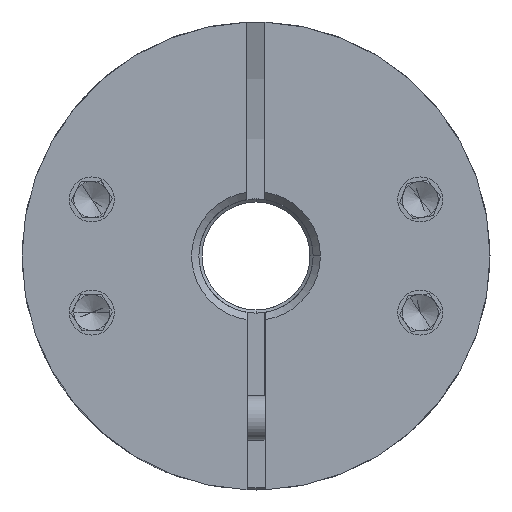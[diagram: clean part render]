
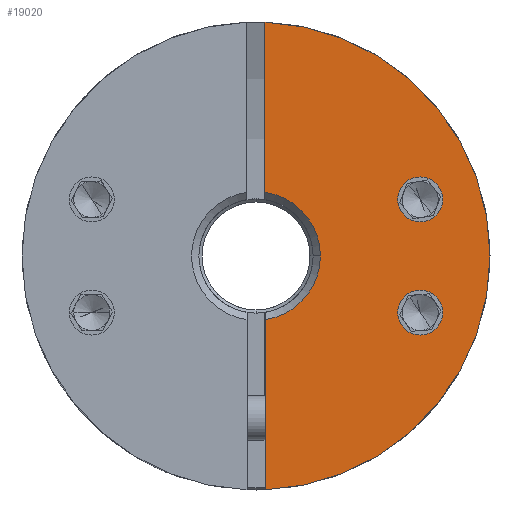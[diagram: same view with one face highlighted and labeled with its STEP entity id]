
A CAD part, front view. The second image highlights one B-rep face of the part: STEP entity #19020.
In plain terms, the highlighted planar face has unit normal (0, -1, 0).
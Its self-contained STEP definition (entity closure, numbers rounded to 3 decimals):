
#128 = CARTESIAN_POINT ( 'NONE',  ( 1.755, -26.289, 0. ) ) ;
#429 = VERTEX_POINT ( 'NONE', #4558 ) ;
#482 = AXIS2_PLACEMENT_3D ( 'NONE', #10220, #5095, #10377 ) ;
#1578 = ORIENTED_EDGE ( 'NONE', *, *, #4959, .T. ) ;
#1662 = CIRCLE ( 'NONE', #4465, 13. ) ;
#1715 = VECTOR ( 'NONE', #4500, 1000. ) ;
#1779 = DIRECTION ( 'NONE',  ( 1., 0., 0. ) ) ;
#1834 = AXIS2_PLACEMENT_3D ( 'NONE', #9045, #7270, #1779 ) ;
#1962 = VERTEX_POINT ( 'NONE', #6136 ) ;
#2467 = CIRCLE ( 'NONE', #12481, 1.25 ) ;
#2945 = CIRCLE ( 'NONE', #20123, 1.25 ) ;
#3411 = DIRECTION ( 'NONE',  ( 0., 1., 0. ) ) ;
#3462 = AXIS2_PLACEMENT_3D ( 'NONE', #4614, #8118, #15222 ) ;
#3483 = CARTESIAN_POINT ( 'NONE',  ( 2.255, -26.289, 12.99 ) ) ;
#3816 = LINE ( 'NONE', #15208, #22156 ) ;
#3853 = DIRECTION ( 'NONE',  ( 0., 1., 0. ) ) ;
#3950 = CIRCLE ( 'NONE', #1834, 1.25 ) ;
#4294 = ORIENTED_EDGE ( 'NONE', *, *, #6946, .T. ) ;
#4465 = AXIS2_PLACEMENT_3D ( 'NONE', #6839, #19250, #12063 ) ;
#4500 = DIRECTION ( 'NONE',  ( 0., 0., -1. ) ) ;
#4558 = CARTESIAN_POINT ( 'NONE',  ( 14.755, -26.289, 0. ) ) ;
#4614 = CARTESIAN_POINT ( 'NONE',  ( 1.755, -26.289, 0. ) ) ;
#4959 = EDGE_CURVE ( 'NONE', #9065, #15441, #7051, .T. ) ;
#5095 = DIRECTION ( 'NONE',  ( 0., 1., 0. ) ) ;
#5261 = AXIS2_PLACEMENT_3D ( 'NONE', #19138, #8539, #20921 ) ;
#5328 = CARTESIAN_POINT ( 'NONE',  ( 2.255, -26.289, -12.99 ) ) ;
#5977 = DIRECTION ( 'NONE',  ( 0., -1., 0. ) ) ;
#5995 = ORIENTED_EDGE ( 'NONE', *, *, #20347, .T. ) ;
#6072 = CIRCLE ( 'NONE', #9771, 1.25 ) ;
#6136 = CARTESIAN_POINT ( 'NONE',  ( 9.63, -26.289, -3.142 ) ) ;
#6371 = VERTEX_POINT ( 'NONE', #9936 ) ;
#6620 = EDGE_CURVE ( 'NONE', #15441, #6371, #14505, .T. ) ;
#6717 = EDGE_CURVE ( 'NONE', #12293, #1962, #2467, .T. ) ;
#6839 = CARTESIAN_POINT ( 'NONE',  ( 1.755, -26.289, 0. ) ) ;
#6946 = EDGE_CURVE ( 'NONE', #14194, #429, #11403, .T. ) ;
#7051 = LINE ( 'NONE', #20014, #1715 ) ;
#7270 = DIRECTION ( 'NONE',  ( 0., 1., 0. ) ) ;
#7306 = CARTESIAN_POINT ( 'NONE',  ( 10.88, -26.289, -3.142 ) ) ;
#8118 = DIRECTION ( 'NONE',  ( 0., -1., 0. ) ) ;
#8282 = CARTESIAN_POINT ( 'NONE',  ( 10.88, -26.289, -3.142 ) ) ;
#8539 = DIRECTION ( 'NONE',  ( 0., 1., 0. ) ) ;
#9045 = CARTESIAN_POINT ( 'NONE',  ( 10.88, -26.289, 3.142 ) ) ;
#9065 = VERTEX_POINT ( 'NONE', #3483 ) ;
#9197 = VERTEX_POINT ( 'NONE', #15014 ) ;
#9491 = VERTEX_POINT ( 'NONE', #19462 ) ;
#9771 = AXIS2_PLACEMENT_3D ( 'NONE', #8282, #13830, #17369 ) ;
#9936 = CARTESIAN_POINT ( 'NONE',  ( 5.33, -26.289, 0. ) ) ;
#10190 = ORIENTED_EDGE ( 'NONE', *, *, #13528, .T. ) ;
#10220 = CARTESIAN_POINT ( 'NONE',  ( 1.755, -26.289, 0. ) ) ;
#10377 = DIRECTION ( 'NONE',  ( 1., 0., 0. ) ) ;
#10423 = ORIENTED_EDGE ( 'NONE', *, *, #15235, .T. ) ;
#10722 = EDGE_CURVE ( 'NONE', #429, #9065, #1662, .T. ) ;
#11326 = CARTESIAN_POINT ( 'NONE',  ( 12.13, -26.289, -3.142 ) ) ;
#11403 = CIRCLE ( 'NONE', #20298, 13. ) ;
#12063 = DIRECTION ( 'NONE',  ( 1., 0., 0. ) ) ;
#12270 = ORIENTED_EDGE ( 'NONE', *, *, #12556, .T. ) ;
#12293 = VERTEX_POINT ( 'NONE', #11326 ) ;
#12401 = FACE_OUTER_BOUND ( 'NONE', #21244, .T. ) ;
#12481 = AXIS2_PLACEMENT_3D ( 'NONE', #7306, #3853, #16333 ) ;
#12556 = EDGE_CURVE ( 'NONE', #6371, #21753, #18036, .T. ) ;
#12909 = EDGE_CURVE ( 'NONE', #21753, #14194, #3816, .T. ) ;
#13528 = EDGE_CURVE ( 'NONE', #9491, #9197, #2945, .T. ) ;
#13646 = ORIENTED_EDGE ( 'NONE', *, *, #10722, .T. ) ;
#13830 = DIRECTION ( 'NONE',  ( 0., 1., 0. ) ) ;
#14194 = VERTEX_POINT ( 'NONE', #5328 ) ;
#14505 = CIRCLE ( 'NONE', #482, 3.575 ) ;
#15014 = CARTESIAN_POINT ( 'NONE',  ( 12.13, -26.289, 3.142 ) ) ;
#15208 = CARTESIAN_POINT ( 'NONE',  ( 2.255, -26.289, 5. ) ) ;
#15222 = DIRECTION ( 'NONE',  ( 1., 0., 0. ) ) ;
#15235 = EDGE_CURVE ( 'NONE', #1962, #12293, #6072, .T. ) ;
#15294 = CARTESIAN_POINT ( 'NONE',  ( 2.255, -26.289, -3.54 ) ) ;
#15441 = VERTEX_POINT ( 'NONE', #17599 ) ;
#16333 = DIRECTION ( 'NONE',  ( 1., 0., 0. ) ) ;
#17101 = FACE_BOUND ( 'NONE', #18259, .T. ) ;
#17219 = ORIENTED_EDGE ( 'NONE', *, *, #6717, .T. ) ;
#17369 = DIRECTION ( 'NONE',  ( 1., 0., 0. ) ) ;
#17599 = CARTESIAN_POINT ( 'NONE',  ( 2.255, -26.289, 3.54 ) ) ;
#18036 = CIRCLE ( 'NONE', #5261, 3.575 ) ;
#18259 = EDGE_LOOP ( 'NONE', ( #10423, #17219 ) ) ;
#18283 = ORIENTED_EDGE ( 'NONE', *, *, #12909, .T. ) ;
#18731 = DIRECTION ( 'NONE',  ( 0., 0., -1. ) ) ;
#19020 = ADVANCED_FACE ( 'NONE', ( #12401, #20104, #17101 ), #22173, .T. ) ;
#19138 = CARTESIAN_POINT ( 'NONE',  ( 1.755, -26.289, 0. ) ) ;
#19250 = DIRECTION ( 'NONE',  ( 0., -1., 0. ) ) ;
#19338 = CARTESIAN_POINT ( 'NONE',  ( 10.88, -26.289, 3.142 ) ) ;
#19462 = CARTESIAN_POINT ( 'NONE',  ( 9.63, -26.289, 3.142 ) ) ;
#19696 = ORIENTED_EDGE ( 'NONE', *, *, #6620, .T. ) ;
#20014 = CARTESIAN_POINT ( 'NONE',  ( 2.255, -26.289, 5. ) ) ;
#20104 = FACE_BOUND ( 'NONE', #21819, .T. ) ;
#20123 = AXIS2_PLACEMENT_3D ( 'NONE', #19338, #3411, #21119 ) ;
#20298 = AXIS2_PLACEMENT_3D ( 'NONE', #128, #5977, #21902 ) ;
#20347 = EDGE_CURVE ( 'NONE', #9197, #9491, #3950, .T. ) ;
#20921 = DIRECTION ( 'NONE',  ( 1., 0., 0. ) ) ;
#21119 = DIRECTION ( 'NONE',  ( 1., 0., 0. ) ) ;
#21244 = EDGE_LOOP ( 'NONE', ( #1578, #19696, #12270, #18283, #4294, #13646 ) ) ;
#21753 = VERTEX_POINT ( 'NONE', #15294 ) ;
#21819 = EDGE_LOOP ( 'NONE', ( #10190, #5995 ) ) ;
#21902 = DIRECTION ( 'NONE',  ( 1., 0., 0. ) ) ;
#22156 = VECTOR ( 'NONE', #18731, 1000. ) ;
#22173 = PLANE ( 'NONE',  #3462 ) ;
